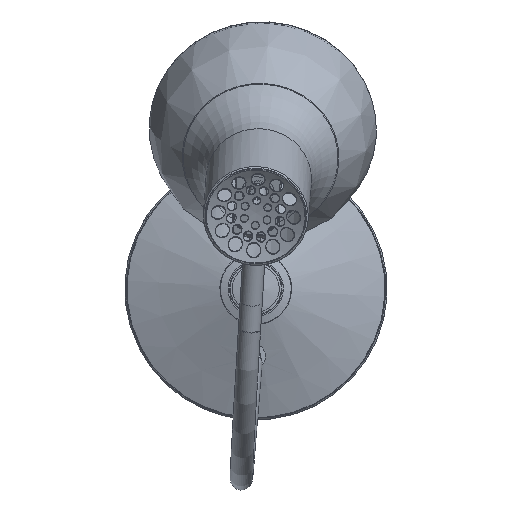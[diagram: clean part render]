
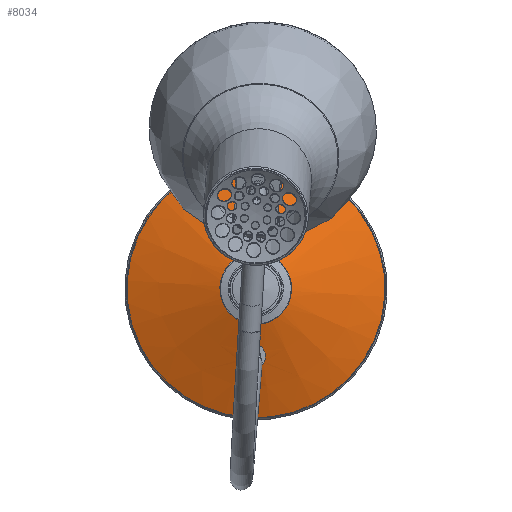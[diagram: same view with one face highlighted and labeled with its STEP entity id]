
A CAD part, top view. The second image highlights one B-rep face of the part: STEP entity #8034.
In plain terms, the highlighted conical face has half-angle 70 degrees and reference radius 20.521 mm.
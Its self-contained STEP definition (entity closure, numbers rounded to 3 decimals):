
#185=B_SPLINE_CURVE_WITH_KNOTS('',3,(#11301,#11302,#11303,#11304,#11305,
#11306,#11307,#11308,#11309,#11310,#11311,#11312,#11313,#11314,#11315,#11316,
#11317,#11318,#11319,#11320,#11321,#11322,#11323),.UNSPECIFIED.,.F.,.F.,
(4,2,2,2,2,2,2,2,2,3,4),(2.644,2.72,2.983,
3.245,3.507,3.769,4.031,4.294,
4.556,4.818,4.895),.UNSPECIFIED.);
#186=B_SPLINE_CURVE_WITH_KNOTS('',3,(#11325,#11326,#11327,#11328,#11329,
#11330,#11331,#11332),.UNSPECIFIED.,.F.,.F.,(4,2,2,4),(1.784,
2.039,2.38,2.644),.UNSPECIFIED.);
#187=B_SPLINE_CURVE_WITH_KNOTS('',3,(#11334,#11335,#11336,#11337,#11338,
#11339,#11340,#11341,#11342,#11343,#11344,#11345,#11346,#11347),
 .UNSPECIFIED.,.F.,.F.,(4,2,2,2,2,2,4),(0.077,0.341,
0.681,1.021,1.36,1.7,1.784),
 .UNSPECIFIED.);
#545=CONICAL_SURFACE('',#8586,20.521,1.222);
#559=LINE('',#11430,#1092);
#1092=VECTOR('',#9365,20.521);
#1780=FACE_BOUND('',#2379,.T.);
#1914=FACE_OUTER_BOUND('',#2378,.T.);
#2378=EDGE_LOOP('',(#5400,#5401,#5402,#5403));
#2379=EDGE_LOOP('',(#5404,#5405,#5406));
#2965=CIRCLE('',#8585,74.013);
#2966=CIRCLE('',#8587,20.521);
#3287=VERTEX_POINT('',#11299);
#3288=VERTEX_POINT('',#11300);
#3289=VERTEX_POINT('',#11324);
#3302=VERTEX_POINT('',#11425);
#3303=VERTEX_POINT('',#11429);
#4107=EDGE_CURVE('',#3287,#3288,#185,.T.);
#4108=EDGE_CURVE('',#3289,#3287,#186,.T.);
#4110=EDGE_CURVE('',#3288,#3289,#187,.T.);
#4132=EDGE_CURVE('',#3302,#3302,#2965,.T.);
#4133=EDGE_CURVE('',#3302,#3303,#559,.T.);
#4134=EDGE_CURVE('',#3303,#3303,#2966,.T.);
#5400=ORIENTED_EDGE('',*,*,#4132,.F.);
#5401=ORIENTED_EDGE('',*,*,#4133,.T.);
#5402=ORIENTED_EDGE('',*,*,#4134,.T.);
#5403=ORIENTED_EDGE('',*,*,#4133,.F.);
#5404=ORIENTED_EDGE('',*,*,#4110,.T.);
#5405=ORIENTED_EDGE('',*,*,#4108,.T.);
#5406=ORIENTED_EDGE('',*,*,#4107,.T.);
#8034=ADVANCED_FACE('',(#1914,#1780),#545,.T.);
#8585=AXIS2_PLACEMENT_3D('',#11427,#9361,#9362);
#8586=AXIS2_PLACEMENT_3D('',#11428,#9363,#9364);
#8587=AXIS2_PLACEMENT_3D('',#11431,#9366,#9367);
#9361=DIRECTION('center_axis',(0.006,-1.,0.));
#9362=DIRECTION('ref_axis',(0.998,0.006,0.064));
#9363=DIRECTION('center_axis',(0.006,-1.,0.));
#9364=DIRECTION('ref_axis',(0.998,0.006,0.064));
#9365=DIRECTION('',(0.936,0.348,0.06));
#9366=DIRECTION('center_axis',(0.006,-1.,0.));
#9367=DIRECTION('ref_axis',(0.998,0.006,0.064));
#11299=CARTESIAN_POINT('',(-132.508,-105.879,38.22));
#11300=CARTESIAN_POINT('',(-116.616,-105.781,39.232));
#11301=CARTESIAN_POINT('Ctrl Pts',(-132.508,-105.879,
38.22));
#11302=CARTESIAN_POINT('Ctrl Pts',(-132.468,-105.79,37.978));
#11303=CARTESIAN_POINT('Ctrl Pts',(-132.415,-105.702,
37.74));
#11304=CARTESIAN_POINT('Ctrl Pts',(-132.133,-105.313,
36.718));
#11305=CARTESIAN_POINT('Ctrl Pts',(-131.75,-104.989,
35.909));
#11306=CARTESIAN_POINT('Ctrl Pts',(-130.698,-104.384,
34.485));
#11307=CARTESIAN_POINT('Ctrl Pts',(-130.028,-104.102,33.869));
#11308=CARTESIAN_POINT('Ctrl Pts',(-128.616,-103.653,
32.942));
#11309=CARTESIAN_POINT('Ctrl Pts',(-127.767,-103.452,32.561));
#11310=CARTESIAN_POINT('Ctrl Pts',(-125.973,-103.18,32.102));
#11311=CARTESIAN_POINT('Ctrl Pts',(-125.028,-103.109,
32.025));
#11312=CARTESIAN_POINT('Ctrl Pts',(-123.283,-103.098,
32.136));
#11313=CARTESIAN_POINT('Ctrl Pts',(-122.354,-103.157,
32.333));
#11314=CARTESIAN_POINT('Ctrl Pts',(-120.63,-103.408,
33.015));
#11315=CARTESIAN_POINT('Ctrl Pts',(-119.834,-103.599,
33.502));
#11316=CARTESIAN_POINT('Ctrl Pts',(-118.546,-104.031,34.601));
#11317=CARTESIAN_POINT('Ctrl Pts',(-117.956,-104.305,35.296));
#11318=CARTESIAN_POINT('Ctrl Pts',(-117.085,-104.899,
36.843));
#11319=CARTESIAN_POINT('Ctrl Pts',(-116.804,-105.218,37.694));
#11320=CARTESIAN_POINT('Ctrl Pts',(-116.684,-105.517,38.507));
#11321=CARTESIAN_POINT('Ctrl Pts',(-116.649,-105.604,38.745));
#11322=CARTESIAN_POINT('Ctrl Pts',(-116.626,-105.692,
38.987));
#11323=CARTESIAN_POINT('Ctrl Pts',(-116.616,-105.781,
39.232));
#11324=CARTESIAN_POINT('',(-129.183,-108.242,45.624));
#11325=CARTESIAN_POINT('Ctrl Pts',(-129.183,-108.242,
45.624));
#11326=CARTESIAN_POINT('Ctrl Pts',(-129.914,-108.11,
45.13));
#11327=CARTESIAN_POINT('Ctrl Pts',(-130.552,-107.939,
44.521));
#11328=CARTESIAN_POINT('Ctrl Pts',(-131.727,-107.485,
42.985));
#11329=CARTESIAN_POINT('Ctrl Pts',(-132.231,-107.154,
41.917));
#11330=CARTESIAN_POINT('Ctrl Pts',(-132.634,-106.497,39.942));
#11331=CARTESIAN_POINT('Ctrl Pts',(-132.647,-106.187,
39.054));
#11332=CARTESIAN_POINT('Ctrl Pts',(-132.508,-105.879,
38.22));
#11334=CARTESIAN_POINT('Ctrl Pts',(-116.616,-105.781,
39.232));
#11335=CARTESIAN_POINT('Ctrl Pts',(-116.58,-106.087,
40.077));
#11336=CARTESIAN_POINT('Ctrl Pts',(-116.702,-106.398,40.957));
#11337=CARTESIAN_POINT('Ctrl Pts',(-117.344,-107.062,
42.865));
#11338=CARTESIAN_POINT('Ctrl Pts',(-117.976,-107.4,
43.861));
#11339=CARTESIAN_POINT('Ctrl Pts',(-119.522,-107.936,45.43));
#11340=CARTESIAN_POINT('Ctrl Pts',(-120.524,-108.164,
46.094));
#11341=CARTESIAN_POINT('Ctrl Pts',(-122.735,-108.471,
46.924));
#11342=CARTESIAN_POINT('Ctrl Pts',(-123.944,-108.551,
47.091));
#11343=CARTESIAN_POINT('Ctrl Pts',(-126.203,-108.565,
46.947));
#11344=CARTESIAN_POINT('Ctrl Pts',(-127.382,-108.5,
46.628));
#11345=CARTESIAN_POINT('Ctrl Pts',(-128.688,-108.325,
45.938));
#11346=CARTESIAN_POINT('Ctrl Pts',(-128.94,-108.285,
45.787));
#11347=CARTESIAN_POINT('Ctrl Pts',(-129.183,-108.242,
45.624));
#11425=CARTESIAN_POINT('',(-195.929,-119.079,-3.905));
#11427=CARTESIAN_POINT('Origin',(-122.067,-118.621,0.8));
#11428=CARTESIAN_POINT('Origin',(-122.187,-99.152,0.8));
#11429=CARTESIAN_POINT('',(-142.667,-99.279,-0.505));
#11430=CARTESIAN_POINT('',(-142.667,-99.279,-0.505));
#11431=CARTESIAN_POINT('Origin',(-122.187,-99.152,0.8));
